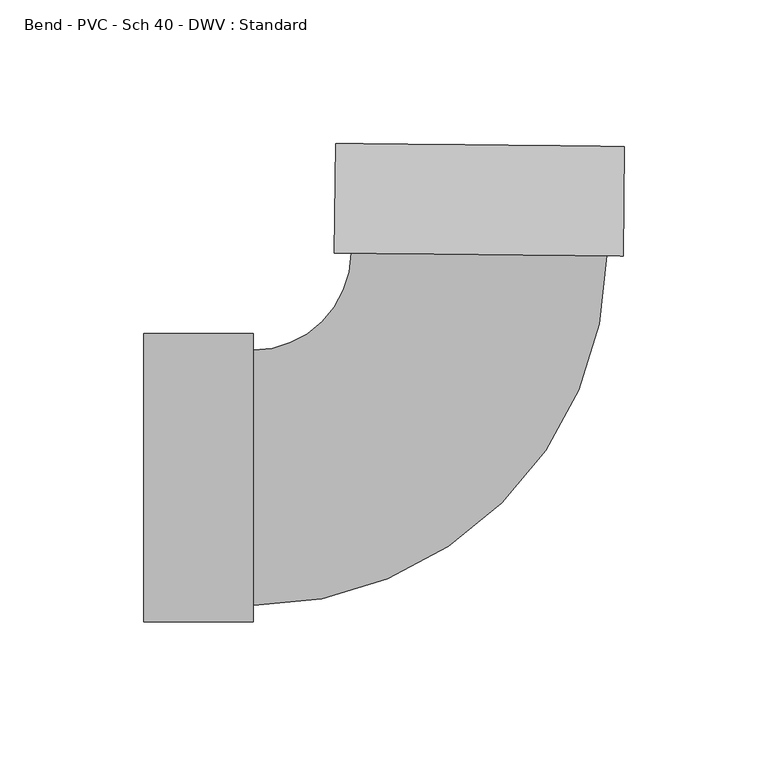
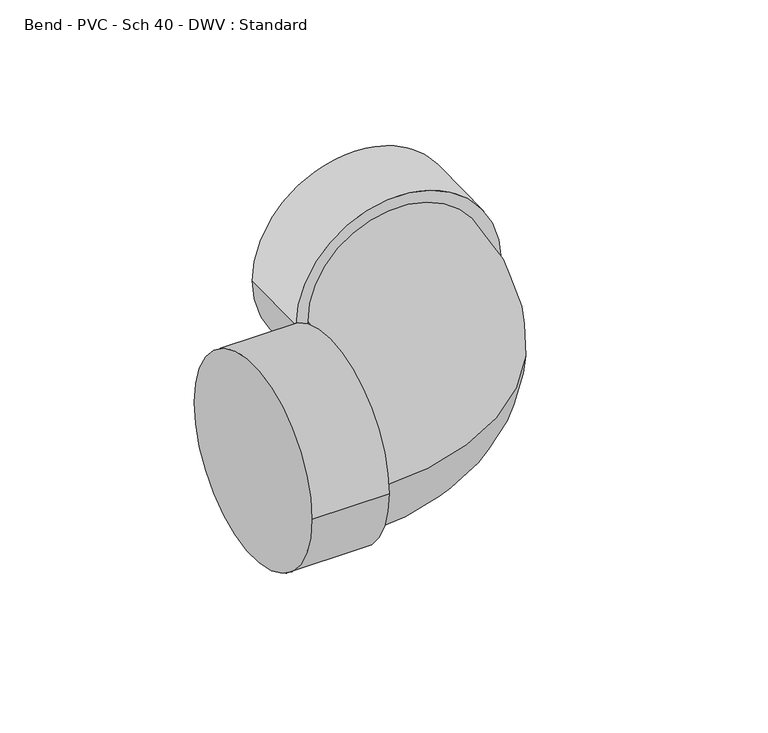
"""IFC4 building model written with IfcOpenShell, lengths in millimetres: pipe fitting geometry, Bend - PVC - Sch 40 - DWV : Standard."""

from ifc_helpers import new_model, si_unit, point, frame, origin, place, context, project, spatial, circle_curve, ellipse_curve, trimmed, source, transform, mapped, element, save
from ifc_brep_helpers import plane_surface, cylinder_surface, revolved_surface, advanced_brep


def bend_pvc_sch_40_dwv_standard_b43dd8eb(model_context):
    return source(origin(), model_context, "Body", "AdvancedBrep", [
        advanced_brep(
        [(-115.9002, -50.2666, 0.0), (-115.9002, 50.2666, 0.0), (-77.8002, -50.2666, 0.0), (-77.8002, 50.2666, 0.0), (-77.8002, -44.45, 0.0), (-77.8002, 44.45, 0.0), (-43.6372138, 78.2589751, 0.0), (45.2579634, 77.3329837, 0.0), (51.0742479, 77.2723974, 0.0), (-49.4534983, 78.3195614, 0.0), (51.4711013, 115.3703305, 0.0), (-49.0566448, 116.4174945, 0.0)],
        [
            (0, 1, circle_curve(frame((-115.9002, 0.0, 0.0), z_axis=(-1.0, 0.0, 0.0), x_axis=(0.0, 1.0, 0.0)), 50.2666)),
            (1, 0, circle_curve(frame((-115.9002, 0.0, 0.0), z_axis=(-1.0, 0.0, 0.0), x_axis=(0.0, 1.0, 0.0)), 50.2666)),
            (2, 3, circle_curve(frame((-77.8002, 0.0, 0.0), z_axis=(1.0, 0.0, 0.0), x_axis=(0.0, 1.0, 0.0)), 50.2666)),
            (3, 2, circle_curve(frame((-77.8002, 0.0, 0.0), z_axis=(1.0, 0.0, 0.0), x_axis=(0.0, 1.0, 0.0)), 50.2666)),
            (4, 5, circle_curve(frame((-77.8002, 0.0, 0.0), z_axis=(-1.0, 0.0, 0.0), x_axis=(0.0, 1.0, 0.0)), 44.45)),
            (5, 4, circle_curve(frame((-77.8002, 0.0, 0.0), z_axis=(-1.0, 0.0, 0.0), x_axis=(0.0, 1.0, 0.0)), 44.45)),
            (0, 2),
            (3, 1),
            (6, 5, circle_curve(frame((-77.8002, 78.6148396, 0.0), z_axis=(0.0, 0.0, -1.0), x_axis=(0.0, -1.0, 0.0)), 34.1648396)),
            (4, 7, circle_curve(frame((-77.8002, 78.6148396, 0.0), z_axis=(0.0, 0.0, 1.0), x_axis=(0.0, -1.0, 0.0)), 123.0648396)),
            (7, 6, circle_curve(frame((0.8103748, 77.7959794, 0.0), z_axis=(-0.010416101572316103, -0.9999457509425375, 0.0), x_axis=(-0.9999457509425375, 0.010416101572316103, 0.0)), 44.45)),
            (6, 7, circle_curve(frame((0.8103748, 77.7959794, 0.0), z_axis=(-0.010416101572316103, -0.9999457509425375, 0.0), x_axis=(-0.9999457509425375, 0.010416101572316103, 0.0)), 44.45)),
            (8, 9, circle_curve(frame((0.8103748, 77.7959794, 0.0), z_axis=(-0.010416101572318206, -0.9999457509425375, 0.0), x_axis=(-0.9999457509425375, 0.010416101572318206, 0.0)), 50.2666)),
            (9, 8, circle_curve(frame((0.8103748, 77.7959794, 0.0), z_axis=(-0.010416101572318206, -0.9999457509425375, 0.0), x_axis=(-0.9999457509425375, 0.010416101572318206, 0.0)), 50.2666)),
            (10, 11, circle_curve(frame((1.2072283, 115.8939125, 0.0), z_axis=(0.010416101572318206, 0.9999457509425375, 0.0), x_axis=(-0.9999457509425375, 0.010416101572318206, 0.0)), 50.2666)),
            (11, 10, circle_curve(frame((1.2072283, 115.8939125, 0.0), z_axis=(0.010416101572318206, 0.9999457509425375, 0.0), x_axis=(-0.9999457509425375, 0.010416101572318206, 0.0)), 50.2666)),
            (8, 10),
            (11, 9),
        ],
        [
            plane_surface(frame((-115.9002, 0.0, 0.0), z_axis=(-1.0, 0.0, 0.0), x_axis=(0.0, 0.0, 1.0))),
            plane_surface(frame((-77.8002, 0.0, 0.0), z_axis=(1.0, 0.0, 0.0), x_axis=(0.0, 0.0, 1.0))),
            cylinder_surface(frame((-115.9002, 0.0, 0.0), z_axis=(-1.0, 0.0, 0.0), x_axis=(0.0, 1.0, 0.0)), 50.2666),
            revolved_surface(trimmed(ellipse_curve(frame((-77.8002, 0.0, 0.0), z_axis=(-1.0, 0.0, 0.0), x_axis=(0.0, 1.0, 0.0)), 44.45, 44.45), [point((-77.8002, -44.45, 0.0))], [point((-77.8002, 44.45, 0.0))], True, "CARTESIAN"), (-77.8002, 78.6148396, 0.0), (0.0, 0.0, 1.0)),
            revolved_surface(trimmed(ellipse_curve(frame((-77.8002, 0.0, 0.0), z_axis=(-1.0, 0.0, 0.0), x_axis=(0.0, 1.0, 0.0)), 44.45, 44.45), [point((-77.8002, 44.45, 0.0))], [point((-77.8002, -44.45, 0.0))], True, "CARTESIAN"), (-77.8002, 78.6148396, 0.0), (0.0, 0.0, 1.0)),
            plane_surface(frame((0.8103748, 77.7959794, 0.0), z_axis=(-0.010416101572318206, -0.9999457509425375, 0.0), x_axis=(0.0, 0.0, 1.0))),
            plane_surface(frame((1.2072283, 115.8939125, 0.0), z_axis=(0.010416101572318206, 0.9999457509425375, 0.0), x_axis=(0.0, 0.0, 1.0))),
            cylinder_surface(frame((0.8103748, 77.7959794, 0.0), z_axis=(-0.010416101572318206, -0.9999457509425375, 0.0), x_axis=(-0.9999457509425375, 0.010416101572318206, 0.0)), 50.2666),
        ],
        [
            (0, [[1, 2]]),
            (1, [[3, 4], [5, 6]]),
            (2, [[-1, 7, -4, 8]]),
            (2, [[-2, -8, -3, -7]]),
            (3, [[9, -5, 10, 11]]),
            (4, [[-9, 12, -10, -6]]),
            (5, [[13, 14], [-11, -12]]),
            (6, [[15, 16]]),
            (7, [[-13, 17, -16, 18]]),
            (7, [[-14, -18, -15, -17]]),
        ],
    ),
    ])


if __name__ == "__main__":
    model = new_model("IFC4")
    model_context = context("Model", 3, world=origin())
    ifc_project = project(units=[si_unit("LENGTHUNIT", "METRE", prefix="MILLI")], contexts=[model_context])
    site = spatial("IfcSite", under=ifc_project)
    building = spatial("IfcBuilding", under=site)
    placement = place(None, origin())
    bend_pvc_sch_40_dwv_standard_shape = bend_pvc_sch_40_dwv_standard_b43dd8eb(model_context)
    element("IfcPipeFitting", 1, ObjectType="Bend - PVC - Sch 40 - DWV : Standard", at=placement, inside=building, context=model_context, shape_type="MappedRepresentation", body=[
        mapped(bend_pvc_sch_40_dwv_standard_shape, transform((0.0, 0.0, 0.0), x_axis=(1.0, 0.0, 0.0), y_axis=(0.0, 1.0, 0.0), z_axis=(0.0, 0.0, 1.0))),
    ])
    save(model, "model.ifc")
